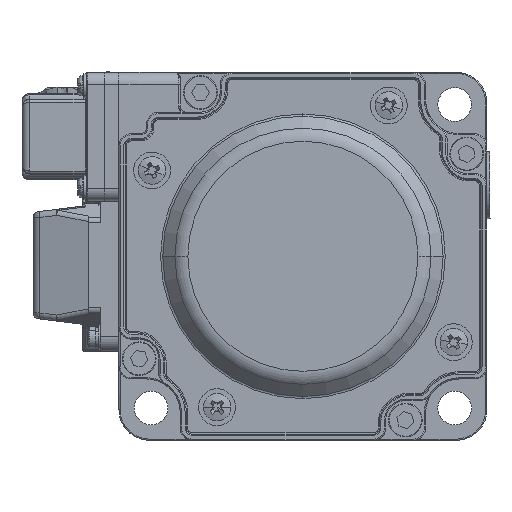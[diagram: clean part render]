
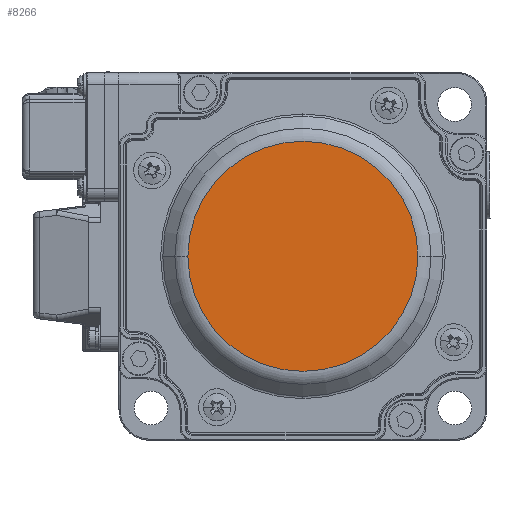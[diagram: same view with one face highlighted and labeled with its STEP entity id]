
A CAD part, left-side view. The second image highlights one B-rep face of the part: STEP entity #8266.
In plain terms, the highlighted planar face has unit normal (-1, 0, 0).
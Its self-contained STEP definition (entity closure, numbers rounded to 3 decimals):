
#1428 = ORIENTED_EDGE ( 'NONE', *, *, #37964, .T. ) ;
#3111 = DIRECTION ( 'NONE',  ( 0., 1., 0. ) ) ;
#3800 = DIRECTION ( 'NONE',  ( 0., 1., 0. ) ) ;
#3848 = CARTESIAN_POINT ( 'NONE',  ( -75.8, 0., 0. ) ) ;
#4590 = DIRECTION ( 'NONE',  ( 0., 1., 0. ) ) ;
#4855 = CARTESIAN_POINT ( 'NONE',  ( -75.8, -18.757, 0. ) ) ;
#6206 = CIRCLE ( 'NONE', #64610, 18.757 ) ;
#8266 = ADVANCED_FACE ( 'NONE', ( #66530 ), #32503, .F. ) ;
#13462 = CARTESIAN_POINT ( 'NONE',  ( -75.8, 18.757, 0. ) ) ;
#15176 = CIRCLE ( 'NONE', #22393, 18.757 ) ;
#15457 = CARTESIAN_POINT ( 'NONE',  ( -75.8, 0., 0. ) ) ;
#22393 = AXIS2_PLACEMENT_3D ( 'NONE', #3848, #26609, #3111 ) ;
#26609 = DIRECTION ( 'NONE',  ( -1., 0., 0. ) ) ;
#32503 = PLANE ( 'NONE',  #63130 ) ;
#37765 = CARTESIAN_POINT ( 'NONE',  ( -75.8, 20., 0. ) ) ;
#37964 = EDGE_CURVE ( 'NONE', #52326, #45441, #15176, .T. ) ;
#38527 = ORIENTED_EDGE ( 'NONE', *, *, #62923, .T. ) ;
#43830 = DIRECTION ( 'NONE',  ( -1., 0., 0. ) ) ;
#45441 = VERTEX_POINT ( 'NONE', #13462 ) ;
#49716 = DIRECTION ( 'NONE',  ( 1., 0., 0. ) ) ;
#52326 = VERTEX_POINT ( 'NONE', #4855 ) ;
#62923 = EDGE_CURVE ( 'NONE', #45441, #52326, #6206, .T. ) ;
#63130 = AXIS2_PLACEMENT_3D ( 'NONE', #37765, #49716, #3800 ) ;
#64610 = AXIS2_PLACEMENT_3D ( 'NONE', #15457, #43830, #4590 ) ;
#66530 = FACE_OUTER_BOUND ( 'NONE', #70516, .T. ) ;
#70516 = EDGE_LOOP ( 'NONE', ( #38527, #1428 ) ) ;
